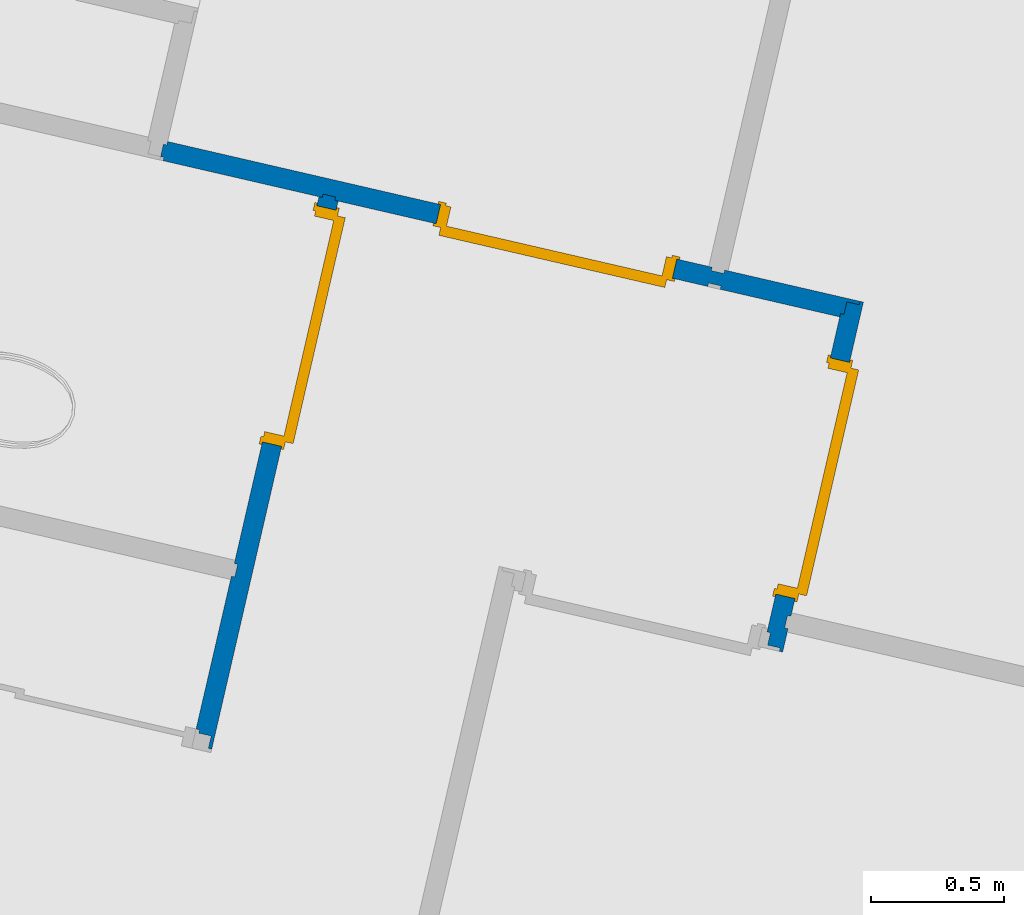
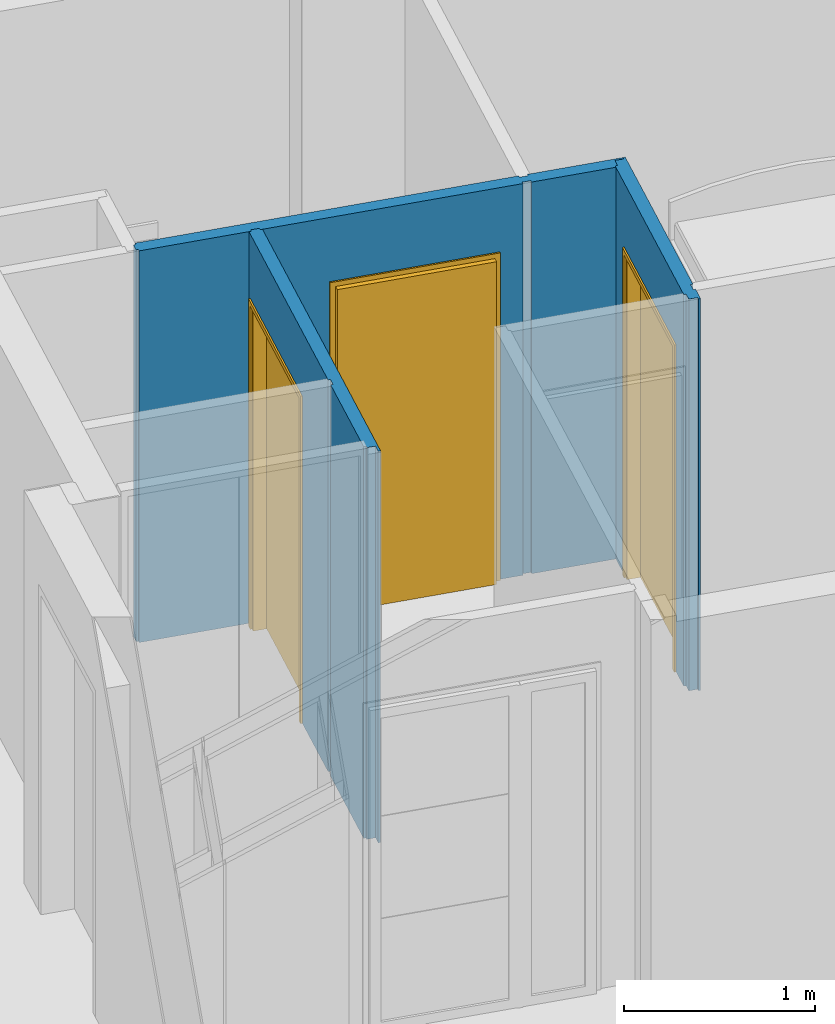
# One storey, part 33 of 90: 3 doors, 3 walls, 3 openings.
"""IFC2X3 building model written with IfcOpenShell, lengths in metres."""

from ifc_helpers import new_model, entity, si_unit, converted_unit, derived_unit, money_unit, direction, frame, origin_with_axes, place, context, subcontext, project, spatial, faceted_brep, source, transform, mapped, material, material_list, type_object, element, fill, save


model = new_model("IFC2X3")

# Units and contexts
model_context = context("Model", 3, precision=1e-05, world=origin_with_axes(), true_north=direction((0.0, 1.0)))
body_context = subcontext(model_context, "Body", "Model", "MODEL_VIEW")
ifc_project = project(units=[si_unit("LENGTHUNIT", "METRE"), si_unit("AREAUNIT", "SQUARE_METRE"), si_unit("VOLUMEUNIT", "CUBIC_METRE"), converted_unit("PLANEANGLEUNIT", "DEGREE", entity("IfcPlaneAngleMeasure", 0.0174532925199), si_unit("PLANEANGLEUNIT", "RADIAN"), dimensions=[0, 0, 0, 0, 0, 0, 0]), si_unit("SOLIDANGLEUNIT", "STERADIAN"), money_unit("EUR"), converted_unit("TIMEUNIT", "Year", entity("IfcTimeMeasure", 31556926.0), si_unit("TIMEUNIT", "SECOND"), dimensions=[0, 0, 1, 0, 0, 0, 0]), si_unit("MASSUNIT", "GRAM", prefix="KILO"), si_unit("THERMODYNAMICTEMPERATUREUNIT", "DEGREE_CELSIUS"), si_unit("LUMINOUSINTENSITYUNIT", "LUMEN"), si_unit("ENERGYUNIT", "JOULE", prefix="MEGA"), derived_unit("THERMALCONDUCTANCEUNIT", [(si_unit("POWERUNIT", "WATT"), 1), (si_unit("LENGTHUNIT", "METRE"), -1), (si_unit("THERMODYNAMICTEMPERATUREUNIT", "KELVIN"), -1)]), derived_unit("SPECIFICHEATCAPACITYUNIT", [(si_unit("ENERGYUNIT", "JOULE"), 1), (si_unit("MASSUNIT", "GRAM", prefix="KILO"), -1), (si_unit("THERMODYNAMICTEMPERATUREUNIT", "KELVIN"), -1)]), derived_unit("MASSDENSITYUNIT", [(si_unit("MASSUNIT", "GRAM", prefix="KILO"), 1), (si_unit("VOLUMEUNIT", "CUBIC_METRE"), -1)])], contexts=[model_context])

# Site, building, storey
site_placement = place(None, origin_with_axes())
site = spatial("IfcSite", under=ifc_project, at=site_placement, Name="Site", CompositionType="ELEMENT")
building_placement = place(site_placement, origin_with_axes())
building = spatial("IfcBuilding", under=site, at=building_placement, Name="Bâtiment", CompositionType="ELEMENT")
storey_placement = place(building_placement, frame((0.0, 0.0, 2.72), z_axis=(0.0, 0.0, 1.0), x_axis=(1.0, 0.0, 0.0)))
storey = spatial("IfcBuildingStorey", under=building, at=storey_placement, Name="R+1", CompositionType="ELEMENT", Elevation=2.72)

# Wall, opening, door
ifc_material_1 = material(Name="Finition int - Plaque de plâtre")
ifc_material_2 = material(Name="Isolation - Laine de roche")
ifc_material_list = material_list([ifc_material_1, ifc_material_2, ifc_material_1])
wall_type = type_object("IfcWallType", Name="3 - Cloison 72mm Placostil 74", PredefinedType="USERDEFINED")
wall_1_placement = place(storey_placement, frame((-5.44455264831, 11.7572018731, 0.0), z_axis=(0.0, 0.0, 1.0), x_axis=(0.974387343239, -0.224876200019, 0.0)))
wall_1 = element("IfcWall", 1, at=wall_1_placement, inside=storey, type_object=wall_type, material=ifc_material_list, Name="Cloison Placostil 72/48", ObjectType="PARTITIONING", context=body_context, shape_type="Brep", body=[
    faceted_brep([(1.05122904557, 0.074, 2.08), (1.05122904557, 0.074, 0.0), (0.0, 0.074, 0.0), (0.0, 0.074, 2.5), (2.09736200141, 0.074, 2.5), (2.09736200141, 0.074, 0.0), (1.96122904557, 0.074, 0.0), (1.96122904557, 0.074, 2.08), (1.05122904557, 0.061, 2.08), (1.05122904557, 0.061, 0.0), (0.0, 0.061, 0.0), (0.0, 0.061, 2.5), (2.09736200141, 0.061, 2.5), (2.09736200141, 0.061, 0.0), (1.96122904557, 0.061, 0.0), (1.96122904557, 0.061, 2.08)], [[[0, 1, 2, 3, 4, 5, 6, 7]], [[1, 0, 8, 9]], [[1, 9, 10, 2]], [[11, 3, 2, 10]], [[3, 11, 12, 4]], [[12, 13, 5, 4]], [[14, 6, 5, 13]], [[7, 6, 14, 15]], [[0, 7, 15, 8]], [[15, 14, 13, 12, 11, 10, 9, 8]]]),
    faceted_brep([(2.14536200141, 0.061, 0.0), (2.14536200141, 0.074, 0.0), (2.66683822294, 0.074, 0.0), (2.66683822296, 0.061, 0.0), (2.14536200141, 0.061, 2.5), (2.14536200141, 0.074, 2.5), (2.66683822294, 0.074, 2.5), (2.66683822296, 0.061, 2.5)], [[[0, 1, 2, 3]], [[1, 0, 4, 5]], [[1, 5, 6, 2]], [[7, 3, 2, 6]], [[4, 0, 3, 7]], [[5, 4, 7, 6]]]),
    faceted_brep([(1.05122904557, 0.061, 2.08), (1.05122904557, 0.061, 0.0), (-0.0130000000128, 0.061, 0.0), (-0.0130000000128, 0.061, 2.5), (2.61883822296, 0.061, 2.5), (2.61883822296, 0.061, 0.0), (1.96122904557, 0.061, 0.0), (1.96122904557, 0.061, 2.08), (1.05122904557, 0.013, 2.08), (1.05122904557, 0.013, 0.0), (-0.0130000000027, 0.013, 0.0), (-0.0130000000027, 0.013, 2.5), (2.61883822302, 0.013, 2.5), (2.61883822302, 0.013, 0.0), (1.96122904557, 0.013, 0.0), (1.96122904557, 0.013, 2.08)], [[[0, 1, 2, 3, 4, 5, 6, 7]], [[1, 0, 8, 9]], [[1, 9, 10, 2]], [[11, 3, 2, 10]], [[3, 11, 12, 4]], [[12, 13, 5, 4]], [[14, 6, 5, 13]], [[7, 6, 14, 15]], [[0, 7, 15, 8]], [[15, 14, 13, 12, 11, 10, 9, 8]]]),
    faceted_brep([(0.61299999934, 0.013, 0.0), (0.0, 0.013, 0.0), (0.0, 0.013, 2.5), (0.61299999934, 0.013, 2.5), (0.612999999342, 0.0, 0.0), (0.0, 0.0, 0.0), (0.0, 0.0, 2.5), (0.612999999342, 0.0, 2.5)], [[[0, 1, 2, 3]], [[4, 5, 1, 0]], [[5, 6, 2, 1]], [[3, 2, 6, 7]], [[3, 7, 4, 0]], [[7, 6, 5, 4]]]),
    faceted_brep([(1.05122904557, 0.013, 2.08), (1.05122904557, 0.013, 0.0), (0.66099999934, 0.013, 0.0), (0.66099999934, 0.013, 2.5), (2.0973620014, 0.013, 2.5), (2.0973620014, 0.013, 0.0), (1.96122904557, 0.013, 0.0), (1.96122904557, 0.013, 2.08), (1.05122904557, 0.0, 2.08), (1.05122904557, 0.0, 0.0), (0.660999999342, 0.0, 0.0), (0.660999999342, 0.0, 2.5), (2.0973620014, 0.0, 2.5), (2.0973620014, 0.0, 0.0), (1.96122904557, 0.0, 0.0), (1.96122904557, 0.0, 2.08)], [[[0, 1, 2, 3, 4, 5, 6, 7]], [[1, 0, 8, 9]], [[1, 9, 10, 2]], [[10, 11, 3, 2]], [[11, 12, 4, 3]], [[13, 5, 4, 12]], [[14, 6, 5, 13]], [[7, 6, 14, 15]], [[0, 7, 15, 8]], [[15, 14, 13, 12, 11, 10, 9, 8]]]),
    faceted_brep([(2.1453620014, 0.0, 0.0), (2.1453620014, 0.013, 0.0), (2.60583822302, 0.013, 0.0), (2.60583822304, 0.0, 0.0), (2.1453620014, 0.0, 2.5), (2.1453620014, 0.013, 2.5), (2.60583822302, 0.013, 2.5), (2.60583822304, 0.0, 2.5)], [[[0, 1, 2, 3]], [[1, 0, 4, 5]], [[1, 5, 6, 2]], [[7, 3, 2, 6]], [[4, 0, 3, 7]], [[5, 4, 7, 6]]]),
])
opening_1_placement = place(wall_1_placement, frame((1.50622904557, 0.0, 0.0), z_axis=(0.0, 0.0, 1.0), x_axis=(1.0, 0.0, 0.0)))
opening_1 = element("IfcOpeningElement", 2, at=opening_1_placement, cuts=wall_1, Name="Porte 83x204 bois alvéolaire", context=body_context, shape_type="Brep", body=[
    faceted_brep([(-0.455, 0.074, 0.0), (0.455, 0.074, 0.0), (0.455, -0.074, 0.0), (-0.455, -0.074, 0.0), (-0.455, 0.074, 2.08), (0.455, 0.074, 2.08), (0.455, -0.074, 2.08), (-0.455, -0.074, 2.08)], [[[0, 1, 2, 3]], [[0, 4, 5, 1]], [[1, 5, 6, 2]], [[3, 2, 6, 7]], [[4, 0, 3, 7]], [[5, 4, 7, 6]]]),
])
door_style_1 = type_object("IfcDoorStyle", Name="Porte int générique 2019", ConstructionType="NOTDEFINED", OperationType="SINGLE_SWING_RIGHT", ParameterTakesPrecedence=False, Sizeable=False)
shared_shape_1 = source(origin_with_axes(), body_context, "Body", "Brep", [
    faceted_brep([(0.455, -0.006, 0.0), (0.415, -0.006, 0.0), (0.415, -0.006, 2.04), (-0.415, -0.006, 2.04), (-0.415, -0.006, 0.0), (-0.455, -0.006, 0.0), (-0.455, -0.006, 2.08), (0.455, -0.006, 2.08), (0.455, -0.08, 0.0), (0.415, -0.08, 0.0), (0.415, -0.08, 2.04), (-0.415, -0.08, 2.04), (-0.415, -0.08, 0.0), (-0.455, -0.08, 0.0), (-0.455, -0.08, 2.08), (0.455, -0.08, 2.08)], [[[0, 1, 2, 3, 4, 5, 6, 7]], [[0, 8, 9, 1]], [[1, 9, 10, 2]], [[2, 10, 11, 3]], [[3, 11, 12, 4]], [[5, 4, 12, 13]], [[14, 6, 5, 13]], [[15, 7, 6, 14]], [[8, 0, 7, 15]], [[9, 8, 15, 14, 13, 12, 11, 10]]]),
    faceted_brep([(0.465, -0.006, 0.0), (0.465, 0.004, 0.0), (0.465, 0.004, 2.09), (0.465, -0.006, 2.09), (0.435, -0.006, 0.0), (0.435, 0.004, 0.0), (0.435, 0.004, 2.06), (-0.435, 0.004, 2.06), (-0.435, 0.004, 0.0), (-0.465, 0.004, 0.0), (-0.465, 0.004, 2.09), (-0.465, -0.006, 2.09), (-0.465, -0.006, 0.0), (-0.435, -0.006, 0.0), (-0.435, -0.006, 2.06), (0.435, -0.006, 2.06)], [[[0, 1, 2, 3]], [[0, 4, 5, 1]], [[1, 5, 6, 7, 8, 9, 10, 2]], [[3, 2, 10, 11]], [[4, 0, 3, 11, 12, 13, 14, 15]], [[5, 4, 15, 6]], [[6, 15, 14, 7]], [[7, 14, 13, 8]], [[12, 9, 8, 13]], [[11, 10, 9, 12]]]),
    faceted_brep([(0.465, -0.09, 0.0), (0.465, -0.08, 0.0), (0.465, -0.08, 2.09), (0.465, -0.09, 2.09), (0.435, -0.09, 0.0), (0.435, -0.08, 0.0), (0.435, -0.08, 2.06), (-0.435, -0.08, 2.06), (-0.435, -0.08, 0.0), (-0.465, -0.08, 0.0), (-0.465, -0.08, 2.09), (-0.465, -0.09, 2.09), (-0.465, -0.09, 0.0), (-0.435, -0.09, 0.0), (-0.435, -0.09, 2.06), (0.435, -0.09, 2.06)], [[[0, 1, 2, 3]], [[0, 4, 5, 1]], [[1, 5, 6, 7, 8, 9, 10, 2]], [[3, 2, 10, 11]], [[4, 0, 3, 11, 12, 13, 14, 15]], [[5, 4, 15, 6]], [[6, 15, 14, 7]], [[7, 14, 13, 8]], [[12, 9, 8, 13]], [[11, 10, 9, 12]]]),
    faceted_brep([(0.435, 0.034, 0.0), (0.435, -0.006, 0.0), (-0.435, -0.006, 0.0), (-0.435, 0.034, 0.0), (0.435, 0.034, 2.06), (0.435, -0.006, 2.06), (-0.435, -0.006, 2.06), (-0.435, 0.034, 2.06)], [[[0, 1, 2, 3]], [[4, 5, 1, 0]], [[1, 5, 6, 2]], [[3, 2, 6, 7]], [[0, 3, 7, 4]], [[7, 6, 5, 4]]]),
])
door_1_placement = place(opening_1_placement, frame((0.415, 0.0, 0.0), z_axis=(0.0, 0.0, 1.0), x_axis=(-1.0, 0.0, 0.0)))
door_1 = element("IfcDoor", 3, at=door_1_placement, inside=storey, type_object=door_style_1, Name="Porte 83x204 bois alvéolaire", ObjectType="DOOR", OverallHeight=2.04, OverallWidth=0.83, context=body_context, shape_type="MappedRepresentation", body=[
    mapped(shared_shape_1, transform((0.415, 0.006, 0.0))),
])
fill(opening_1, door_1)

wall_2_placement = place(storey_placement, frame((-3.11984447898, 9.91320056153, 0.0), z_axis=(0.0, 0.0, 1.0), x_axis=(0.224876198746, 0.974387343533, 0.0)))
wall_2 = element("IfcWall", 4, at=wall_2_placement, inside=storey, type_object=wall_type, material=ifc_material_list, Name="Cloison Placostil 72/48", ObjectType="PARTITIONING", context=body_context, shape_type="Brep", body=[
    faceted_brep([(0.206154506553, 0.061, 0.0), (0.206154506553, 0.061, 2.08), (1.11615450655, 0.061, 2.08), (1.11615450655, 0.061, 0.0), (1.28699999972, 0.061, 0.0), (1.28699999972, 0.061, 2.5), (0.061, 0.061, 2.5), (0.061, 0.061, 0.0), (0.206154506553, 0.074, 0.0), (0.206154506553, 0.074, 2.08), (1.11615450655, 0.074, 2.08), (1.11615450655, 0.074, 0.0), (1.28699999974, 0.074, 0.0), (1.28699999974, 0.074, 2.5), (0.061, 0.074, 2.5), (0.061, 0.074, 0.0)], [[[0, 1, 2, 3, 4, 5, 6, 7]], [[1, 0, 8, 9]], [[2, 1, 9, 10]], [[3, 2, 10, 11]], [[3, 11, 12, 4]], [[12, 13, 5, 4]], [[13, 14, 6, 5]], [[15, 7, 6, 14]], [[8, 0, 7, 15]], [[9, 8, 15, 14, 13, 12, 11, 10]]]),
    faceted_brep([(0.206154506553, 0.013, 0.0), (0.206154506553, 0.013, 2.08), (1.11615450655, 0.013, 2.08), (1.11615450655, 0.013, 0.0), (1.33499999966, 0.013, 0.0), (1.33499999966, 0.013, 2.5), (0.013, 0.013, 2.5), (0.013, 0.013, 0.0), (0.206154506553, 0.061, 0.0), (0.206154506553, 0.061, 2.08), (1.11615450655, 0.061, 2.08), (1.11615450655, 0.061, 0.0), (1.33499999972, 0.061, 0.0), (1.33499999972, 0.061, 2.5), (0.013, 0.061, 2.5), (0.013, 0.061, 0.0)], [[[0, 1, 2, 3, 4, 5, 6, 7]], [[1, 0, 8, 9]], [[2, 1, 9, 10]], [[3, 2, 10, 11]], [[3, 11, 12, 4]], [[12, 13, 5, 4]], [[13, 14, 6, 5]], [[15, 7, 6, 14]], [[8, 0, 7, 15]], [[9, 8, 15, 14, 13, 12, 11, 10]]]),
    faceted_brep([(0.206154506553, 0.0, 0.0), (0.206154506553, 0.0, 2.08), (1.11615450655, 0.0, 2.08), (1.11615450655, 0.0, 0.0), (1.34799999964, 0.0, 0.0), (1.34799999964, 0.0, 2.5), (0.138146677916, 0.0, 2.5), (0.138146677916, 0.0, 0.0), (0.206154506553, 0.013, 0.0), (0.206154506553, 0.013, 2.08), (1.11615450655, 0.013, 2.08), (1.11615450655, 0.013, 0.0), (1.34799999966, 0.013, 0.0), (1.34799999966, 0.013, 2.5), (0.138146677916, 0.013, 2.5), (0.138146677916, 0.013, 0.0)], [[[0, 1, 2, 3, 4, 5, 6, 7]], [[1, 0, 8, 9]], [[2, 1, 9, 10]], [[3, 2, 10, 11]], [[3, 11, 12, 4]], [[12, 13, 5, 4]], [[13, 14, 6, 5]], [[15, 7, 6, 14]], [[8, 0, 7, 15]], [[9, 8, 15, 14, 13, 12, 11, 10]]]),
    faceted_brep([(0.0901466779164, 0.013, 0.0), (0.0901466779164, 0.0, 0.0), (0.0, 0.0, 0.0), (0.0, 0.013, 0.0), (0.0901466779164, 0.013, 2.5), (0.0901466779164, 0.0, 2.5), (0.0, 0.0, 2.5), (0.0, 0.013, 2.5)], [[[0, 1, 2, 3]], [[1, 0, 4, 5]], [[1, 5, 6, 2]], [[7, 3, 2, 6]], [[4, 0, 3, 7]], [[5, 4, 7, 6]]]),
])
opening_2_placement = place(wall_2_placement, frame((0.661154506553, 0.0, 0.0), z_axis=(0.0, 0.0, 1.0), x_axis=(1.0, 0.0, 0.0)))
opening_2 = element("IfcOpeningElement", 5, at=opening_2_placement, cuts=wall_2, Name="Porte 83x204 bois alvéolaire", context=body_context, shape_type="Brep", body=[
    faceted_brep([(-0.455, 0.074, 0.0), (0.455, 0.074, 0.0), (0.455, -0.074, 0.0), (-0.455, -0.074, 0.0), (-0.455, 0.074, 2.08), (0.455, 0.074, 2.08), (0.455, -0.074, 2.08), (-0.455, -0.074, 2.08)], [[[0, 1, 2, 3]], [[0, 4, 5, 1]], [[1, 5, 6, 2]], [[3, 2, 6, 7]], [[4, 0, 3, 7]], [[5, 4, 7, 6]]]),
])
shared_shape_2 = source(origin_with_axes(), body_context, "Body", "Brep", [
    faceted_brep([(0.455, 0.0, 0.0), (0.415, 0.0, 0.0), (0.415, 0.0, 2.04), (-0.415, 0.0, 2.04), (-0.415, 0.0, 0.0), (-0.455, 0.0, 0.0), (-0.455, 0.0, 2.08), (0.455, 0.0, 2.08), (0.455, -0.074, 0.0), (0.415, -0.074, 0.0), (0.415, -0.074, 2.04), (-0.415, -0.074, 2.04), (-0.415, -0.074, 0.0), (-0.455, -0.074, 0.0), (-0.455, -0.074, 2.08), (0.455, -0.074, 2.08)], [[[0, 1, 2, 3, 4, 5, 6, 7]], [[0, 8, 9, 1]], [[1, 9, 10, 2]], [[2, 10, 11, 3]], [[3, 11, 12, 4]], [[5, 4, 12, 13]], [[14, 6, 5, 13]], [[15, 7, 6, 14]], [[8, 0, 7, 15]], [[9, 8, 15, 14, 13, 12, 11, 10]]]),
    faceted_brep([(0.465, 0.0, 0.0), (0.465, 0.01, 0.0), (0.465, 0.01, 2.09), (0.465, 0.0, 2.09), (0.435, 0.0, 0.0), (0.435, 0.01, 0.0), (0.435, 0.01, 2.06), (-0.435, 0.01, 2.06), (-0.435, 0.01, 0.0), (-0.465, 0.01, 0.0), (-0.465, 0.01, 2.09), (-0.465, 0.0, 2.09), (-0.465, 0.0, 0.0), (-0.435, 0.0, 0.0), (-0.435, 0.0, 2.06), (0.435, 0.0, 2.06)], [[[0, 1, 2, 3]], [[0, 4, 5, 1]], [[1, 5, 6, 7, 8, 9, 10, 2]], [[3, 2, 10, 11]], [[4, 0, 3, 11, 12, 13, 14, 15]], [[5, 4, 15, 6]], [[6, 15, 14, 7]], [[7, 14, 13, 8]], [[12, 9, 8, 13]], [[11, 10, 9, 12]]]),
    faceted_brep([(0.465, -0.084, 0.0), (0.465, -0.074, 0.0), (0.465, -0.074, 2.09), (0.465, -0.084, 2.09), (0.435, -0.084, 0.0), (0.435, -0.074, 0.0), (0.435, -0.074, 2.06), (-0.435, -0.074, 2.06), (-0.435, -0.074, 0.0), (-0.465, -0.074, 0.0), (-0.465, -0.074, 2.09), (-0.465, -0.084, 2.09), (-0.465, -0.084, 0.0), (-0.435, -0.084, 0.0), (-0.435, -0.084, 2.06), (0.435, -0.084, 2.06)], [[[0, 1, 2, 3]], [[0, 4, 5, 1]], [[1, 5, 6, 7, 8, 9, 10, 2]], [[3, 2, 10, 11]], [[4, 0, 3, 11, 12, 13, 14, 15]], [[5, 4, 15, 6]], [[6, 15, 14, 7]], [[7, 14, 13, 8]], [[12, 9, 8, 13]], [[11, 10, 9, 12]]]),
    faceted_brep([(0.435, 0.04, 0.0), (0.435, 0.0, 0.0), (-0.435, 0.0, 0.0), (-0.435, 0.04, 0.0), (0.435, 0.04, 2.06), (0.435, 0.0, 2.06), (-0.435, 0.0, 2.06), (-0.435, 0.04, 2.06)], [[[0, 1, 2, 3]], [[4, 5, 1, 0]], [[1, 5, 6, 2]], [[3, 2, 6, 7]], [[0, 3, 7, 4]], [[7, 6, 5, 4]]]),
])
door_2_placement = place(opening_2_placement, frame((0.415, 0.0, 0.0), z_axis=(0.0, 0.0, 1.0), x_axis=(-1.0, 0.0, 0.0)))
door_2 = element("IfcDoor", 6, at=door_2_placement, inside=storey, type_object=door_style_1, Name="Porte 83x204 bois alvéolaire", ObjectType="DOOR", OverallHeight=2.04, OverallWidth=0.83, context=body_context, shape_type="MappedRepresentation", body=[
    mapped(shared_shape_2, transform((0.415, 0.0, 0.0))),
])
fill(opening_2, door_2)

wall_3_placement = place(storey_placement, frame((-4.78781557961, 11.6056353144, 0.0), z_axis=(0.0, 0.0, 1.0), x_axis=(-0.224876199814, -0.974387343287, 0.0)))
wall_3 = element("IfcWall", 7, at=wall_3_placement, inside=storey, type_object=wall_type, material=ifc_material_list, Name="Cloison Placostil 72/48", ObjectType="PARTITIONING", context=body_context, shape_type="Brep", body=[
    faceted_brep([(0.944650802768, 0.0, 0.0), (0.944650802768, 0.0, 2.08), (0.034650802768, 0.0, 2.08), (0.034650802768, 0.0, 0.0), (0.0, 0.0, 0.0), (0.0, 0.0, 2.5), (2.11100000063, 0.0, 2.5), (2.11100000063, 0.0, 0.0), (0.944650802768, -0.013, 0.0), (0.944650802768, -0.013, 2.08), (0.034650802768, -0.013, 2.08), (0.034650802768, -0.013, 0.0), (0.0, -0.013, 0.0), (0.0, -0.013, 2.5), (2.11100000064, -0.013, 2.5), (2.11100000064, -0.013, 0.0)], [[[0, 1, 2, 3, 4, 5, 6, 7]], [[1, 0, 8, 9]], [[2, 1, 9, 10]], [[3, 2, 10, 11]], [[3, 11, 12, 4]], [[13, 5, 4, 12]], [[6, 5, 13, 14]], [[14, 15, 7, 6]], [[8, 0, 7, 15]], [[9, 8, 15, 14, 13, 12, 11, 10]]]),
    faceted_brep([(0.944650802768, -0.013, 0.0), (0.944650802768, -0.013, 2.08), (0.034650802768, -0.013, 2.08), (0.034650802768, -0.013, 0.0), (-0.0130000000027, -0.013, 0.0), (-0.0130000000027, -0.013, 2.5), (2.06300000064, -0.013, 2.5), (2.06300000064, -0.013, 0.0), (0.944650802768, -0.061, 0.0), (0.944650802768, -0.061, 2.08), (0.034650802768, -0.061, 2.08), (0.034650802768, -0.061, 0.0), (-0.0130000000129, -0.061, 0.0), (-0.0130000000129, -0.061, 2.5), (2.06300000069, -0.061, 2.5), (2.06300000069, -0.061, 0.0)], [[[0, 1, 2, 3, 4, 5, 6, 7]], [[1, 0, 8, 9]], [[2, 1, 9, 10]], [[3, 2, 10, 11]], [[3, 11, 12, 4]], [[13, 5, 4, 12]], [[6, 5, 13, 14]], [[14, 15, 7, 6]], [[8, 0, 7, 15]], [[9, 8, 15, 14, 13, 12, 11, 10]]]),
    faceted_brep([(0.944650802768, -0.061, 0.0), (0.944650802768, -0.061, 2.08), (0.034650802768, -0.061, 2.08), (0.034650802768, -0.061, 0.0), (0.0, -0.061, 0.0), (0.0, -0.061, 2.5), (1.4130000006, -0.061, 2.5), (1.4130000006, -0.061, 0.0), (0.944650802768, -0.074, 0.0), (0.944650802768, -0.074, 2.08), (0.034650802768, -0.074, 2.08), (0.034650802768, -0.074, 0.0), (0.0, -0.074, 0.0), (0.0, -0.074, 2.5), (1.4130000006, -0.074, 2.5), (1.4130000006, -0.074, 0.0)], [[[0, 1, 2, 3, 4, 5, 6, 7]], [[1, 0, 8, 9]], [[2, 1, 9, 10]], [[3, 2, 10, 11]], [[3, 11, 12, 4]], [[13, 5, 4, 12]], [[6, 5, 13, 14]], [[14, 15, 7, 6]], [[8, 0, 7, 15]], [[9, 8, 15, 14, 13, 12, 11, 10]]]),
    faceted_brep([(2.05000000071, -0.074, 2.5), (2.05000000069, -0.061, 2.5), (1.4610000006, -0.061, 2.5), (1.4610000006, -0.074, 2.5), (2.05000000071, -0.074, 0.0), (2.05000000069, -0.061, 0.0), (1.4610000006, -0.061, 0.0), (1.4610000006, -0.074, 0.0)], [[[0, 1, 2, 3]], [[1, 0, 4, 5]], [[1, 5, 6, 2]], [[7, 3, 2, 6]], [[4, 0, 3, 7]], [[5, 4, 7, 6]]]),
])
opening_3_placement = place(wall_3_placement, frame((0.489650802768, 0.0, 0.0), z_axis=(0.0, 0.0, 1.0), x_axis=(1.0, 0.0, 0.0)))
opening_3 = element("IfcOpeningElement", 8, at=opening_3_placement, cuts=wall_3, Name="Porte 83x204 bois alvéolaire", context=body_context, shape_type="Brep", body=[
    faceted_brep([(-0.455, 0.074, 0.0), (0.455, 0.074, 0.0), (0.455, -0.074, 0.0), (-0.455, -0.074, 0.0), (-0.455, 0.074, 2.08), (0.455, 0.074, 2.08), (0.455, -0.074, 2.08), (-0.455, -0.074, 2.08)], [[[0, 1, 2, 3]], [[0, 4, 5, 1]], [[1, 5, 6, 2]], [[3, 2, 6, 7]], [[4, 0, 3, 7]], [[5, 4, 7, 6]]]),
])
door_style_2 = type_object("IfcDoorStyle", Name="Porte int générique 2019", ConstructionType="NOTDEFINED", OperationType="SINGLE_SWING_LEFT", ParameterTakesPrecedence=False, Sizeable=False)
shared_shape_3 = source(origin_with_axes(), body_context, "Body", "Brep", [
    faceted_brep([(-0.455, 0.0, 0.0), (-0.455, 0.0, 2.08), (0.455, 0.0, 2.08), (0.455, 0.0, 0.0), (0.415, 0.0, 0.0), (0.415, 0.0, 2.04), (-0.415, 0.0, 2.04), (-0.415, 0.0, 0.0), (-0.455, -0.074, 0.0), (-0.455, -0.074, 2.08), (0.455, -0.074, 2.08), (0.455, -0.074, 0.0), (0.415, -0.074, 0.0), (0.415, -0.074, 2.04), (-0.415, -0.074, 2.04), (-0.415, -0.074, 0.0)], [[[0, 1, 2, 3, 4, 5, 6, 7]], [[8, 9, 1, 0]], [[9, 10, 2, 1]], [[10, 11, 3, 2]], [[3, 11, 12, 4]], [[5, 4, 12, 13]], [[6, 5, 13, 14]], [[7, 6, 14, 15]], [[0, 7, 15, 8]], [[15, 14, 13, 12, 11, 10, 9, 8]]]),
    faceted_brep([(-0.465, 0.0, 0.0), (-0.465, 0.0, 2.09), (-0.465, 0.01, 2.09), (-0.465, 0.01, 0.0), (-0.435, 0.0, 0.0), (-0.435, 0.0, 2.06), (0.435, 0.0, 2.06), (0.435, 0.0, 0.0), (0.465, 0.0, 0.0), (0.465, 0.0, 2.09), (0.465, 0.01, 2.09), (0.465, 0.01, 0.0), (0.435, 0.01, 0.0), (0.435, 0.01, 2.06), (-0.435, 0.01, 2.06), (-0.435, 0.01, 0.0)], [[[0, 1, 2, 3]], [[4, 5, 6, 7, 8, 9, 1, 0]], [[1, 9, 10, 2]], [[3, 2, 10, 11, 12, 13, 14, 15]], [[0, 3, 15, 4]], [[15, 14, 5, 4]], [[14, 13, 6, 5]], [[13, 12, 7, 6]], [[8, 7, 12, 11]], [[9, 8, 11, 10]]]),
    faceted_brep([(-0.465, -0.084, 0.0), (-0.465, -0.084, 2.09), (-0.465, -0.074, 2.09), (-0.465, -0.074, 0.0), (-0.435, -0.084, 0.0), (-0.435, -0.084, 2.06), (0.435, -0.084, 2.06), (0.435, -0.084, 0.0), (0.465, -0.084, 0.0), (0.465, -0.084, 2.09), (0.465, -0.074, 2.09), (0.465, -0.074, 0.0), (0.435, -0.074, 0.0), (0.435, -0.074, 2.06), (-0.435, -0.074, 2.06), (-0.435, -0.074, 0.0)], [[[0, 1, 2, 3]], [[4, 5, 6, 7, 8, 9, 1, 0]], [[1, 9, 10, 2]], [[3, 2, 10, 11, 12, 13, 14, 15]], [[0, 3, 15, 4]], [[15, 14, 5, 4]], [[14, 13, 6, 5]], [[13, 12, 7, 6]], [[8, 7, 12, 11]], [[9, 8, 11, 10]]]),
    faceted_brep([(-0.435, 0.04, 0.0), (0.435, 0.04, 0.0), (0.435, 0.0, 0.0), (-0.435, 0.0, 0.0), (-0.435, 0.04, 2.06), (0.435, 0.04, 2.06), (0.435, 0.0, 2.06), (-0.435, 0.0, 2.06)], [[[0, 1, 2, 3]], [[0, 4, 5, 1]], [[1, 5, 6, 2]], [[3, 2, 6, 7]], [[4, 0, 3, 7]], [[5, 4, 7, 6]]]),
])
door_3_placement = place(opening_3_placement, frame((-0.415, 0.0, 0.0), z_axis=(0.0, 0.0, 1.0), x_axis=(1.0, 0.0, 0.0)))
door_3 = element("IfcDoor", 9, at=door_3_placement, inside=storey, type_object=door_style_2, Name="Porte 83x204 bois alvéolaire", ObjectType="DOOR", OverallHeight=2.04, OverallWidth=0.83, context=body_context, shape_type="MappedRepresentation", body=[
    mapped(shared_shape_3, transform((0.415, 0.0, 0.0))),
])
fill(opening_3, door_3)

save(model, "model.ifc")
